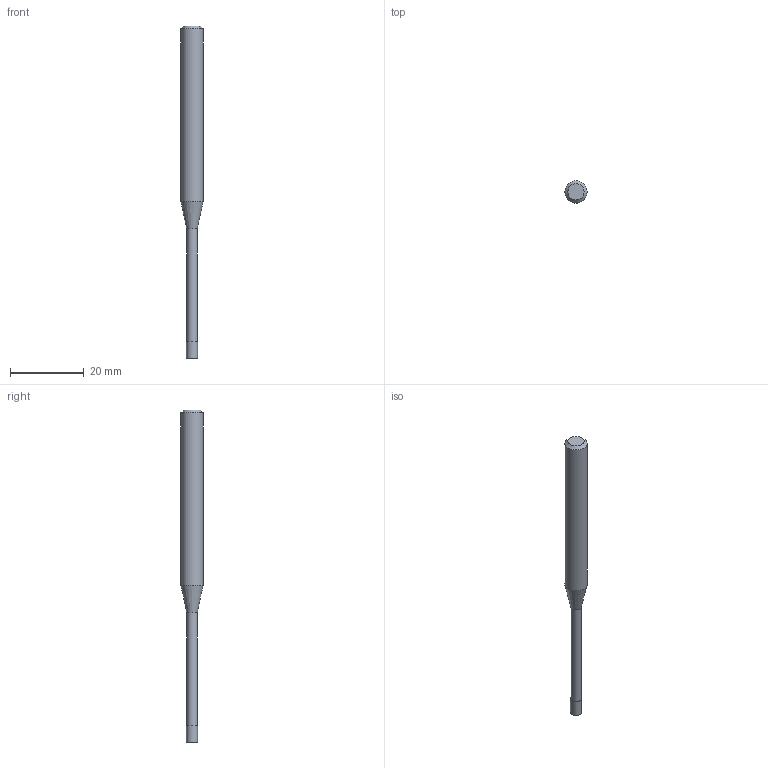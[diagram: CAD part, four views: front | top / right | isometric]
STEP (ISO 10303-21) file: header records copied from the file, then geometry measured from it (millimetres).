
FILE_DESCRIPTION((''),'2;1');
FILE_NAME('C:\Users\nsx150\AppData\Local\Temp\Mastercam 2021\17T8Q8S9EB\TEMP.step','2021-04-21T14:28:33',(''),(''),'STEP Write','Mastercam 2021 ... CNC Software, Inc.','');
FILE_SCHEMA(('AUTOMOTIVE_DESIGN'));
Length unit declared in the file: millimetre
Products named in the file (1): None
Bounding box: 6 x 6 x 90 mm (x, y, z)
Volume: 1685.2 mm3; surface area: 1357 mm2
Topology: 2 solids, 2 shells, 9 faces, 12 edges, 7 vertices
Faces by surface type: plane 4, cylinder 3, cone 2
Full cylindrical faces by diameter (mm): 2.85 x1, 3 x1, 6 x1
Entity records: 211 total; most frequent: DIRECTION 36, CARTESIAN_POINT 25, AXIS2_PLACEMENT_3D 18, ORIENTED_EDGE 14, EDGE_LOOP 14, STYLED_ITEM 12, ADVANCED_FACE 9, FACE_BOUND 8
